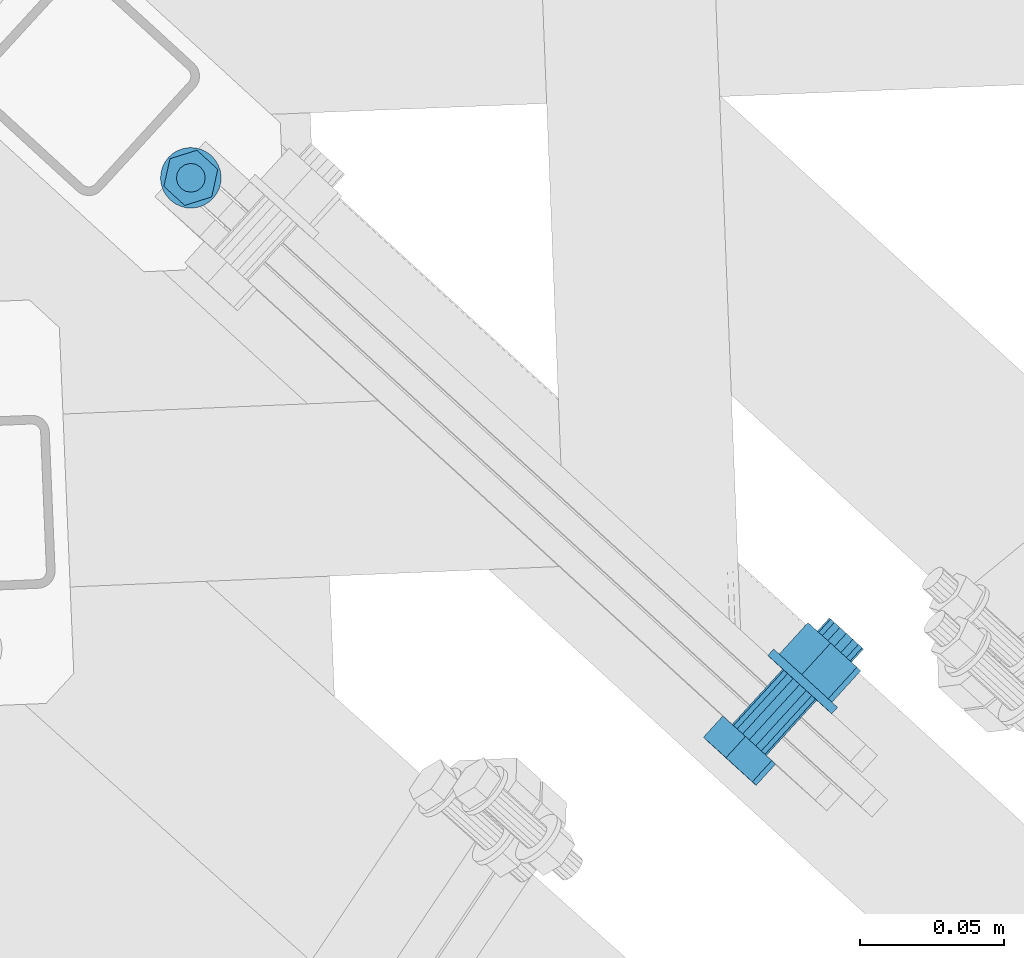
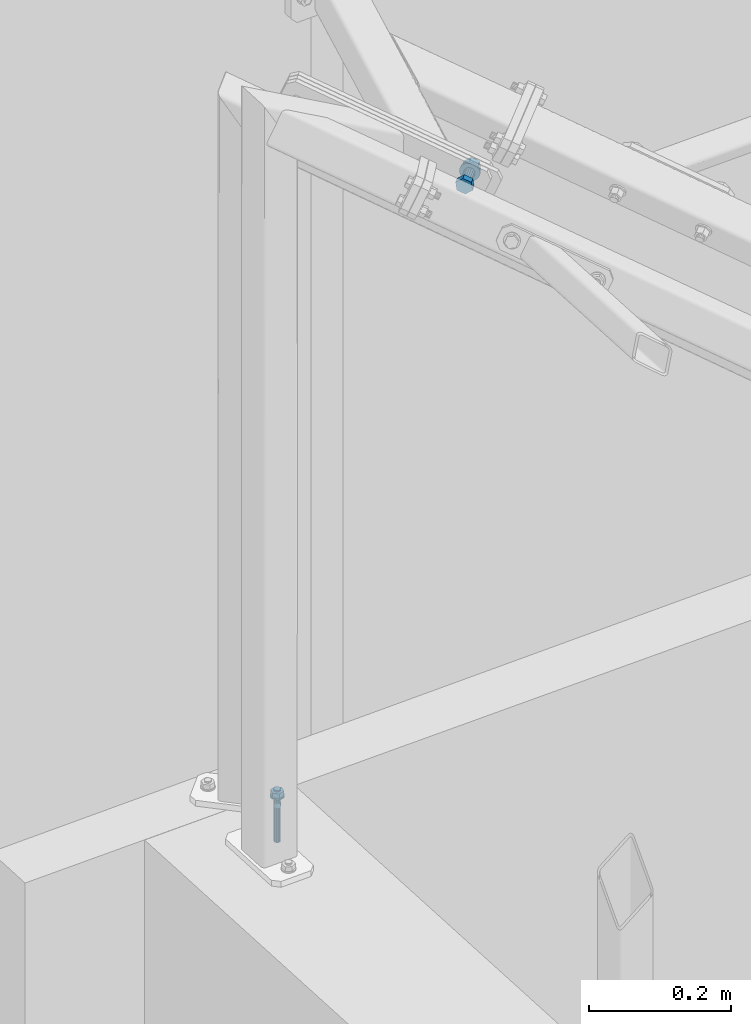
# One storey, part 254 of 288: 2 mechanical fasteners.
"""IFC2X3 building model written with IfcOpenShell, lengths in millimetres."""

from ifc_helpers import new_model, entity, si_unit, converted_unit, origin_with_axes, place, context, project, spatial, faceted_brep, element, save


model = new_model("IFC2X3")

# Units and contexts
model_context = context("Model", 3, precision=1e-09, world=origin_with_axes())
ifc_project = project(units=[si_unit("LENGTHUNIT", "METRE", prefix="MILLI"), si_unit("AREAUNIT", "SQUARE_METRE"), si_unit("VOLUMEUNIT", "CUBIC_METRE"), converted_unit("PLANEANGLEUNIT", "DEGREE", entity("IfcPlaneAngleMeasure", 0.01745329), si_unit("PLANEANGLEUNIT", "RADIAN"), dimensions=[0, 0, 0, 0, 0, 0, 0])], contexts=[model_context])

# Site, building, storey
site_placement = place(None, origin_with_axes())
site = spatial("IfcSite", under=ifc_project, at=site_placement, Name="Remont ?wietlik?w nad MC w NCPP w Opolu", CompositionType="ELEMENT")
building_placement = place(site_placement, origin_with_axes())
building = spatial("IfcBuilding", under=site, at=building_placement, Name="Konstrukcja 1", CompositionType="ELEMENT")
storey_placement = place(building_placement, origin_with_axes())
storey = spatial("IfcBuildingStorey", under=building, at=storey_placement, Name="Default Storey", CompositionType="ELEMENT", Elevation=0.0)

# Mechanical fasteners
mechanical_fastener_1_placement = place(None, origin_with_axes())
element("IfcMechanicalFastener", 1, at=mechanical_fastener_1_placement, inside=storey, ObjectType="-", NominalDiameter=16.0, NominalLength=50.0, context=model_context, shape_type="Brep", body=[
    faceted_brep([(-483.577297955, 15206.854760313, 1122.709779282), (-490.317324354, 15199.467561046, 1122.746263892), (-489.019726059, 15198.218185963, 1109.493116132), (-482.27969966, 15205.60538523, 1109.456631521), (-496.853578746, 15205.325305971, 1101.307138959), (-490.113552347, 15212.712505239, 1101.270654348), (-505.985029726, 15213.681801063, 1106.374309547), (-499.245003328, 15221.06900033, 1106.337824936), (-507.282628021, 15214.931176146, 1119.627457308), (-500.542601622, 15222.318375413, 1119.590972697), (-499.448775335, 15207.824056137, 1127.81343448), (-492.708748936, 15215.211255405, 1127.77694987)], [[[0, 1, 2, 3]], [[3, 2, 4, 5]], [[5, 4, 6, 7]], [[7, 6, 8, 9]], [[9, 8, 10, 11]], [[11, 10, 1, 0]], [[4, 2, 1, 10, 8, 6]], [[0, 3, 5, 7, 9, 11]]]),
    faceted_brep([(-493.668321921, 15215.984741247, 1107.120207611), (-476.144253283, 15235.191459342, 1107.025347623), (-473.88229504, 15233.124720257, 1106.429063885), (-491.406363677, 15213.918002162, 1106.523923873), (-471.621065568, 15231.064661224, 1107.05068909), (-489.145134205, 15211.857943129, 1107.145549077), (-469.704816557, 15229.324907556, 1108.795586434), (-487.228885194, 15210.118189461, 1108.890446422), (-468.425279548, 15228.170320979, 1111.398111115), (-485.949348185, 15208.963602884, 1111.492971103), (-467.977252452, 15227.776676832, 1114.462052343), (-485.501321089, 15208.569958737, 1114.55691233), (-468.428943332, 15228.203903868, 1117.520952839), (-485.953011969, 15208.997185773, 1117.615812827), (-469.711586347, 15229.386960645, 1120.109122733), (-487.235654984, 15210.18024255, 1120.20398272), (-471.629910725, 15231.145737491, 1121.832536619), (-489.153979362, 15211.939019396, 1121.927396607), (-473.891868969, 15233.212476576, 1122.428820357), (-491.415937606, 15214.005758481, 1122.523680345), (-476.15309844, 15235.27253561, 1121.807195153), (-493.677167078, 15216.065817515, 1121.902055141), (-478.069347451, 15237.012289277, 1120.062297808), (-495.593416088, 15217.805571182, 1120.157157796), (-479.34888446, 15238.166875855, 1117.459773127), (-496.872953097, 15218.96015776, 1117.554633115), (-479.796911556, 15238.560520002, 1114.3958319), (-497.320980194, 15219.353801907, 1114.490691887), (-479.345220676, 15238.133292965, 1111.336931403), (-496.869289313, 15218.92657487, 1111.431791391), (-478.062577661, 15236.950236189, 1108.74876151), (-495.586646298, 15217.743518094, 1108.843621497)], [[[0, 1, 2, 3]], [[3, 2, 4, 5]], [[5, 4, 6, 7]], [[7, 6, 8, 9]], [[9, 8, 10, 11]], [[11, 10, 12, 13]], [[13, 12, 14, 15]], [[15, 14, 16, 17]], [[17, 16, 18, 19]], [[19, 18, 20, 21]], [[21, 20, 22, 23]], [[23, 22, 24, 25]], [[25, 24, 26, 27]], [[27, 26, 28, 29]], [[29, 28, 30, 31]], [[31, 30, 1, 0]], [[0, 3, 5, 7, 9, 11, 13, 15, 17, 19, 21, 23, 25, 27, 29, 31]], [[1, 30, 28, 26, 24, 22, 20, 18, 16, 14, 12, 10, 8, 6, 4, 2]]]),
    faceted_brep([(-478.119278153, 15236.961462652, 1100.547202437), (-476.097270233, 15239.177622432, 1100.536257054), (-474.018053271, 15237.276401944, 1099.69432992), (-476.040061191, 15235.060242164, 1099.705275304), (-471.856098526, 15235.302486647, 1099.418225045), (-473.878106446, 15233.086326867, 1099.429170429), (-469.694488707, 15233.331733, 1099.718552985), (-471.716496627, 15231.11557322, 1099.729498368), (-467.616293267, 15231.43987596, 1100.583772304), (-469.638301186, 15229.22371618, 1100.594717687), (-465.70137609, 15229.699618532, 1101.980633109), (-467.72338401, 15227.483458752, 1101.991578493), (-464.023326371, 15228.177837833, 1103.855454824), (-466.045334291, 15225.961678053, 1103.866400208), (-462.646630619, 15226.933015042, 1106.136189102), (-464.668638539, 15224.716855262, 1106.147134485), (-461.62419448, 15226.012988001, 1108.735188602), (-463.646202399, 15223.796828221, 1108.746133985), (-460.9953096, 15225.453112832, 1111.552575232), (-463.01731752, 15223.236953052, 1111.563520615), (-460.784143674, 15225.274905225, 1114.480078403), (-462.806151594, 15223.058745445, 1114.491023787), (-460.998811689, 15225.485213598, 1117.405195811), (-463.020819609, 15223.269053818, 1117.416141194), (-461.631064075, 15226.075955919, 1120.215516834), (-463.653071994, 15223.859796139, 1120.226462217), (-462.656603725, 15227.02443029, 1122.803042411), (-464.678611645, 15224.80827051, 1122.813987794), (-464.036019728, 15228.294187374, 1125.068335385), (-466.058027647, 15226.078027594, 1125.079280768), (-465.716301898, 15229.836431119, 1126.924341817), (-467.738309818, 15227.620271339, 1126.9352872), (-467.632877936, 15231.591893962, 1128.299736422), (-469.654885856, 15229.375734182, 1128.310681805), (-469.712094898, 15233.49311445, 1129.141663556), (-471.734102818, 15231.27695467, 1129.152608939), (-471.874049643, 15235.467029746, 1129.417768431), (-473.896057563, 15233.250869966, 1129.428713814), (-474.035659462, 15237.437783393, 1129.117440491), (-476.057667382, 15235.221623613, 1129.128385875), (-476.113854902, 15239.329640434, 1128.252221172), (-478.135862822, 15237.113480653, 1128.263166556), (-478.028772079, 15241.069897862, 1126.855360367), (-480.050779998, 15238.853738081, 1126.86630575), (-479.706821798, 15242.591678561, 1124.980538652), (-481.728829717, 15240.37551878, 1124.991484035), (-481.08351755, 15243.836501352, 1122.699804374), (-483.10552547, 15241.620341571, 1122.710749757), (-482.105953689, 15244.756528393, 1120.100804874), (-484.127961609, 15242.540368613, 1120.111750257), (-482.734838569, 15245.316403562, 1117.283418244), (-484.756846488, 15243.100243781, 1117.294363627), (-482.946004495, 15245.494611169, 1114.355915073), (-484.968012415, 15243.278451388, 1114.366860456), (-482.73133648, 15245.284302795, 1111.430797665), (-484.753344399, 15243.068143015, 1111.441743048), (-482.099084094, 15244.693560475, 1108.620476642), (-484.121092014, 15242.477400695, 1108.631422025), (-481.073544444, 15243.745086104, 1106.032951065), (-483.095552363, 15241.528926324, 1106.043896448), (-479.694128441, 15242.475329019, 1103.767658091), (-481.716136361, 15240.259169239, 1103.778603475), (-478.013846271, 15240.933085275, 1101.911651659), (-480.03585419, 15238.716925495, 1101.922597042)], [[[0, 1, 2, 3]], [[3, 2, 4, 5]], [[5, 4, 6, 7]], [[7, 6, 8, 9]], [[9, 8, 10, 11]], [[11, 10, 12, 13]], [[13, 12, 14, 15]], [[15, 14, 16, 17]], [[17, 16, 18, 19]], [[19, 18, 20, 21]], [[21, 20, 22, 23]], [[23, 22, 24, 25]], [[25, 24, 26, 27]], [[27, 26, 28, 29]], [[29, 28, 30, 31]], [[31, 30, 32, 33]], [[33, 32, 34, 35]], [[35, 34, 36, 37]], [[37, 36, 38, 39]], [[39, 38, 40, 41]], [[41, 40, 42, 43]], [[43, 42, 44, 45]], [[45, 44, 46, 47]], [[47, 46, 48, 49]], [[49, 48, 50, 51]], [[51, 50, 52, 53]], [[53, 52, 54, 55]], [[55, 54, 56, 57]], [[57, 56, 58, 59]], [[59, 58, 60, 61]], [[61, 60, 62, 63]], [[63, 62, 1, 0]], [[0, 3, 5, 7, 9, 11, 13, 15, 17, 19, 21, 23, 25, 27, 29, 31, 33, 35, 37, 39, 41, 43, 45, 47, 49, 51, 53, 55, 57, 59, 61, 63]], [[1, 62, 60, 58, 56, 54, 52, 50, 48, 46, 44, 42, 40, 38, 36, 34, 32, 30, 28, 26, 24, 22, 20, 18, 16, 14, 12, 10, 8, 6, 4, 2]]]),
    faceted_brep([(-454.055982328, 15239.210693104, 1122.549976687), (-464.031221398, 15228.277638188, 1122.603973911), (-462.733623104, 15227.028263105, 1109.35082615), (-452.758384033, 15237.961318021, 1109.296828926), (-470.56747579, 15234.135383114, 1101.164848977), (-460.59223672, 15245.06843803, 1101.110851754), (-479.698926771, 15242.491878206, 1106.232019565), (-469.7236877, 15253.424933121, 1106.178022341), (-480.996525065, 15243.741253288, 1119.485167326), (-471.021285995, 15254.674308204, 1119.431170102), (-473.162672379, 15236.63413328, 1127.671144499), (-463.187433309, 15247.567188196, 1127.617147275)], [[[0, 1, 2, 3]], [[3, 2, 4, 5]], [[5, 4, 6, 7]], [[7, 6, 8, 9]], [[9, 8, 10, 11]], [[11, 10, 1, 0]], [[4, 2, 1, 10, 8, 6]], [[0, 3, 5, 7, 9, 11]]]),
    faceted_brep([(-464.147006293, 15248.340674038, 1106.960405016), (-459.968189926, 15252.920737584, 1106.937784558), (-457.706231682, 15250.853998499, 1106.34150082), (-461.88504805, 15246.273934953, 1106.364121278), (-455.445002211, 15248.793939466, 1106.963126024), (-459.623818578, 15244.21387592, 1106.985746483), (-453.5287532, 15247.054185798, 1108.708023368), (-457.707569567, 15242.474122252, 1108.730643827), (-452.249216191, 15245.89959922, 1111.31054805), (-456.428032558, 15241.319535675, 1111.333168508), (-451.801189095, 15245.505955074, 1114.374489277), (-455.980005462, 15240.925891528, 1114.397109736), (-452.252879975, 15245.93318211, 1117.433389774), (-456.431696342, 15241.353118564, 1117.456010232), (-453.53552299, 15247.116238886, 1120.021559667), (-457.714339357, 15242.536175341, 1120.044180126), (-455.453847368, 15248.875015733, 1121.744973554), (-459.632663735, 15244.294952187, 1121.767594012), (-457.715805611, 15250.941754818, 1122.341257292), (-461.894621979, 15246.361691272, 1122.36387775), (-459.977035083, 15253.001813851, 1121.719632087), (-464.15585145, 15248.421750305, 1121.742252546), (-461.893284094, 15254.741567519, 1119.974734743), (-466.072100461, 15250.161503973, 1119.997355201), (-463.172821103, 15255.896154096, 1117.372210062), (-467.35163747, 15251.316090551, 1117.39483052), (-463.620848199, 15256.289798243, 1114.308268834), (-467.799664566, 15251.709734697, 1114.330889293), (-463.169157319, 15255.862571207, 1111.249368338), (-467.347973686, 15251.282507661, 1111.271988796), (-461.886514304, 15254.67951443, 1108.661198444), (-466.065330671, 15250.099450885, 1108.683818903)], [[[0, 1, 2, 3]], [[3, 2, 4, 5]], [[5, 4, 6, 7]], [[7, 6, 8, 9]], [[9, 8, 10, 11]], [[11, 10, 12, 13]], [[13, 12, 14, 15]], [[15, 14, 16, 17]], [[17, 16, 18, 19]], [[19, 18, 20, 21]], [[21, 20, 22, 23]], [[23, 22, 24, 25]], [[25, 24, 26, 27]], [[27, 26, 28, 29]], [[29, 28, 30, 31]], [[31, 30, 1, 0]], [[0, 3, 5, 7, 9, 11, 13, 15, 17, 19, 21, 23, 25, 27, 29, 31]], [[1, 30, 28, 26, 24, 22, 20, 18, 16, 14, 12, 10, 8, 6, 4, 2]]]),
])
mechanical_fastener_2_placement = place(None, origin_with_axes())
element("IfcMechanicalFastener", 2, at=mechanical_fastener_2_placement, inside=storey, ObjectType="Anchor_Bolt", NominalDiameter=10.0, NominalLength=90.0, context=model_context, shape_type="Brep", body=[
    faceted_brep([(-677.903982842, 15416.631854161, 12.000000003), (-677.903982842, 15416.631854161, 10.000000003), (-679.551369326, 15417.865938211, 10.000000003), (-679.551369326, 15417.865938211, 12.000000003), (-681.407859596, 15418.754920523, 10.000000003), (-681.407859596, 15418.754920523, 12.000000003), (-683.402109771, 15419.264638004, 10.000000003), (-683.402109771, 15419.264638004, 12.000000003), (-685.457481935, 15419.375502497, 10.000000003), (-685.457481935, 15419.375502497, 12.000000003), (-687.49498929, 15419.083253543, 10.000000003), (-687.49498929, 15419.083253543, 12.000000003), (-689.43633157, 15418.399122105, 10.000000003), (-689.43633157, 15418.399122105, 12.000000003), (-691.206904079, 15417.34939897, 10.000000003), (-691.206904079, 15417.34939897, 12.000000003), (-692.73866471, 15415.97442441, 10.000000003), (-692.73866471, 15415.97442441, 12.000000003), (-693.97274876, 15414.327037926, 10.000000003), (-693.97274876, 15414.327037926, 12.000000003), (-694.861731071, 15412.470547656, 10.000000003), (-694.861731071, 15412.470547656, 12.000000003), (-695.371448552, 15410.476297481, 10.000000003), (-695.371448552, 15410.476297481, 12.000000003), (-695.482313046, 15408.420925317, 10.000000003), (-695.482313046, 15408.420925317, 12.000000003), (-695.190064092, 15406.383417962, 10.000000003), (-695.190064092, 15406.383417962, 12.000000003), (-694.505932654, 15404.442075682, 10.000000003), (-694.505932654, 15404.442075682, 12.000000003), (-693.456209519, 15402.671503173, 10.000000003), (-693.456209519, 15402.671503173, 12.000000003), (-692.081234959, 15401.139742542, 10.000000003), (-692.081234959, 15401.139742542, 12.000000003), (-690.433848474, 15399.905658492, 10.000000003), (-690.433848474, 15399.905658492, 12.000000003), (-688.577358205, 15399.016676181, 10.000000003), (-688.577358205, 15399.016676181, 12.000000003), (-686.58310803, 15398.5069587, 10.000000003), (-686.58310803, 15398.5069587, 12.000000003), (-684.527735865, 15398.396094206, 10.000000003), (-684.527735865, 15398.396094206, 12.000000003), (-682.490228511, 15398.68834316, 10.000000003), (-682.490228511, 15398.68834316, 12.000000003), (-680.548886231, 15399.372474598, 10.000000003), (-680.548886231, 15399.372474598, 12.000000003), (-678.778313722, 15400.422197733, 10.000000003), (-678.778313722, 15400.422197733, 12.000000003), (-677.246553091, 15401.797172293, 10.000000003), (-677.246553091, 15401.797172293, 12.000000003), (-676.012469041, 15403.444558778, 10.000000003), (-676.012469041, 15403.444558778, 12.000000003), (-675.123486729, 15405.301049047, 10.000000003), (-675.123486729, 15405.301049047, 12.000000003), (-674.613769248, 15407.295299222, 10.000000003), (-674.613769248, 15407.295299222, 12.000000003), (-674.502904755, 15409.350671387, 10.000000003), (-674.502904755, 15409.350671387, 12.000000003), (-674.795153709, 15411.388178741, 10.000000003), (-674.795153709, 15411.388178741, 12.000000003), (-675.479285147, 15413.329521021, 10.000000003), (-675.479285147, 15413.329521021, 12.000000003), (-676.529008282, 15415.10009353, 10.000000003), (-676.529008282, 15415.10009353, 12.000000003)], [[[0, 1, 2, 3]], [[3, 2, 4, 5]], [[5, 4, 6, 7]], [[7, 6, 8, 9]], [[9, 8, 10, 11]], [[11, 10, 12, 13]], [[13, 12, 14, 15]], [[15, 14, 16, 17]], [[17, 16, 18, 19]], [[19, 18, 20, 21]], [[21, 20, 22, 23]], [[23, 22, 24, 25]], [[25, 24, 26, 27]], [[27, 26, 28, 29]], [[29, 28, 30, 31]], [[31, 30, 32, 33]], [[33, 32, 34, 35]], [[35, 34, 36, 37]], [[37, 36, 38, 39]], [[39, 38, 40, 41]], [[41, 40, 42, 43]], [[43, 42, 44, 45]], [[45, 44, 46, 47]], [[47, 46, 48, 49]], [[49, 48, 50, 51]], [[51, 50, 52, 53]], [[53, 52, 54, 55]], [[55, 54, 56, 57]], [[57, 56, 58, 59]], [[59, 58, 60, 61]], [[61, 60, 62, 63]], [[63, 62, 1, 0]], [[0, 3, 5, 7, 9, 11, 13, 15, 17, 19, 21, 23, 25, 27, 29, 31, 33, 35, 37, 39, 41, 43, 45, 47, 49, 51, 53, 55, 57, 59, 61, 63]], [[1, 62, 60, 58, 56, 54, 52, 50, 48, 46, 44, 42, 40, 38, 36, 34, 32, 30, 28, 26, 24, 22, 20, 18, 16, 14, 12, 10, 8, 6, 4, 2]]]),
    faceted_brep([(-694.337103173, 15405.932761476, 12.000000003), (-694.337103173, 15405.932761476, 20.000000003), (-692.222260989, 15415.50184934, 20.000000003), (-692.222260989, 15415.50184934, 12.000000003), (-682.877766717, 15418.454886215, 20.000000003), (-682.877766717, 15418.454886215, 12.000000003), (-675.648114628, 15411.838835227, 20.000000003), (-675.648114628, 15411.838835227, 12.000000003), (-677.762956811, 15402.269747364, 20.000000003), (-677.762956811, 15402.269747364, 12.000000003), (-687.107451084, 15399.316710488, 20.000000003), (-687.107451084, 15399.316710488, 12.000000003)], [[[0, 1, 2, 3]], [[3, 2, 4, 5]], [[5, 4, 6, 7]], [[7, 6, 8, 9]], [[9, 8, 10, 11]], [[11, 10, 1, 0]], [[4, 2, 1, 10, 8, 6]], [[0, 3, 5, 7, 9, 11]]]),
    faceted_brep([(-681.617072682, 15412.574396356, 23.000000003), (-681.617072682, 15412.574396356, 20.000000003), (-683.285585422, 15413.585380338, 20.000000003), (-683.285585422, 15413.585380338, 23.000000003), (-685.213977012, 15413.880895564, 20.000000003), (-685.213977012, 15413.880895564, 23.000000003), (-687.108667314, 15413.41595252, 20.000000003), (-687.108667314, 15413.41595252, 23.000000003), (-688.681206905, 15412.26133457, 20.000000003), (-688.681206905, 15412.26133457, 23.000000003), (-689.692190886, 15410.59282183, 20.000000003), (-689.692190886, 15410.59282183, 23.000000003), (-689.987706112, 15408.66443024, 20.000000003), (-689.987706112, 15408.66443024, 23.000000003), (-689.522763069, 15406.769739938, 20.000000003), (-689.522763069, 15406.769739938, 23.000000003), (-688.368145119, 15405.197200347, 20.000000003), (-688.368145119, 15405.197200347, 23.000000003), (-686.699632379, 15404.186216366, 20.000000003), (-686.699632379, 15404.186216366, 23.000000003), (-684.771240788, 15403.89070114, 20.000000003), (-684.771240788, 15403.89070114, 23.000000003), (-682.876550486, 15404.355644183, 20.000000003), (-682.876550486, 15404.355644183, 23.000000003), (-681.304010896, 15405.510262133, 20.000000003), (-681.304010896, 15405.510262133, 23.000000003), (-680.293026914, 15407.178774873, 20.000000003), (-680.293026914, 15407.178774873, 23.000000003), (-679.997511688, 15409.107166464, 20.000000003), (-679.997511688, 15409.107166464, 23.000000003), (-680.462454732, 15411.001856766, 20.000000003), (-680.462454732, 15411.001856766, 23.000000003)], [[[0, 1, 2, 3]], [[3, 2, 4, 5]], [[5, 4, 6, 7]], [[7, 6, 8, 9]], [[9, 8, 10, 11]], [[11, 10, 12, 13]], [[13, 12, 14, 15]], [[15, 14, 16, 17]], [[17, 16, 18, 19]], [[19, 18, 20, 21]], [[21, 20, 22, 23]], [[23, 22, 24, 25]], [[25, 24, 26, 27]], [[27, 26, 28, 29]], [[29, 28, 30, 31]], [[31, 30, 1, 0]], [[0, 3, 5, 7, 9, 11, 13, 15, 17, 19, 21, 23, 25, 27, 29, 31]], [[1, 30, 28, 26, 24, 22, 20, 18, 16, 14, 12, 10, 8, 6, 4, 2]]]),
    faceted_brep([(-681.617072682, 15412.574396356, 10.000000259), (-681.617072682, 15412.574396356, 3e-09), (-683.285585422, 15413.585380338, 3e-09), (-683.285585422, 15413.585380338, 10.000000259), (-685.213977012, 15413.880895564, 3e-09), (-685.213977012, 15413.880895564, 10.000000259), (-687.108667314, 15413.41595252, 3e-09), (-687.108667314, 15413.41595252, 10.000000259), (-688.681206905, 15412.26133457, 3e-09), (-688.681206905, 15412.26133457, 10.000000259), (-689.692190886, 15410.59282183, 3e-09), (-689.692190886, 15410.59282183, 10.000000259), (-689.987706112, 15408.66443024, 3e-09), (-689.987706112, 15408.66443024, 10.000000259), (-689.522763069, 15406.769739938, 3e-09), (-689.522763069, 15406.769739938, 10.000000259), (-688.368145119, 15405.197200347, 3e-09), (-688.368145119, 15405.197200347, 10.000000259), (-686.699632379, 15404.186216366, 3e-09), (-686.699632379, 15404.186216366, 10.000000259), (-684.771240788, 15403.89070114, 3e-09), (-684.771240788, 15403.89070114, 10.000000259), (-682.876550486, 15404.355644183, 3e-09), (-682.876550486, 15404.355644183, 10.000000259), (-681.304010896, 15405.510262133, 3e-09), (-681.304010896, 15405.510262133, 10.000000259), (-680.293026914, 15407.178774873, 3e-09), (-680.293026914, 15407.178774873, 10.000000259), (-679.997511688, 15409.107166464, 3e-09), (-679.997511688, 15409.107166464, 10.000000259), (-680.462454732, 15411.001856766, 3e-09), (-680.462454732, 15411.001856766, 10.000000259)], [[[0, 1, 2, 3]], [[3, 2, 4, 5]], [[5, 4, 6, 7]], [[7, 6, 8, 9]], [[9, 8, 10, 11]], [[11, 10, 12, 13]], [[13, 12, 14, 15]], [[15, 14, 16, 17]], [[17, 16, 18, 19]], [[19, 18, 20, 21]], [[21, 20, 22, 23]], [[23, 22, 24, 25]], [[25, 24, 26, 27]], [[27, 26, 28, 29]], [[29, 28, 30, 31]], [[31, 30, 1, 0]], [[0, 3, 5, 7, 9, 11, 13, 15, 17, 19, 21, 23, 25, 27, 29, 31]], [[1, 30, 28, 26, 24, 22, 20, 18, 16, 14, 12, 10, 8, 6, 4, 2]]]),
    faceted_brep([(-681.617072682, 15412.574396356, -2.53e-07), (-681.617072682, 15412.574396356, -6.999999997), (-682.401542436, 15413.162055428, -6.999999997), (-682.401542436, 15413.162055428, -2.53e-07), (-683.285585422, 15413.585380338, -6.999999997), (-683.285585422, 15413.585380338, -2.53e-07), (-684.235228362, 15413.828102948, -6.999999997), (-684.235228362, 15413.828102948, -2.53e-07), (-685.213977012, 15413.880895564, -6.999999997), (-685.213977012, 15413.880895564, -2.53e-07), (-686.18421861, 15413.741729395, -6.999999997), (-686.18421861, 15413.741729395, -2.53e-07), (-687.108667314, 15413.41595252, -6.999999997), (-687.108667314, 15413.41595252, -2.53e-07), (-687.951797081, 15412.916084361, -6.999999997), (-687.951797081, 15412.916084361, -2.53e-07), (-688.681206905, 15412.26133457, -6.999999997), (-688.681206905, 15412.26133457, -2.53e-07), (-689.268865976, 15411.476864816, -6.999999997), (-689.268865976, 15411.476864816, -2.53e-07), (-689.692190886, 15410.59282183, -6.999999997), (-689.692190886, 15410.59282183, -2.53e-07), (-689.934913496, 15409.64317889, -6.999999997), (-689.934913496, 15409.64317889, -2.53e-07), (-689.987706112, 15408.66443024, -6.999999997), (-689.987706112, 15408.66443024, -2.53e-07), (-689.848539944, 15407.694188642, -6.999999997), (-689.848539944, 15407.694188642, -2.53e-07), (-689.522763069, 15406.769739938, -6.999999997), (-689.522763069, 15406.769739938, -2.53e-07), (-689.022894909, 15405.926610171, -6.999999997), (-689.022894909, 15405.926610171, -2.53e-07), (-688.368145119, 15405.197200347, -6.999999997), (-688.368145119, 15405.197200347, -2.53e-07), (-687.583675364, 15404.609541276, -6.999999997), (-687.583675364, 15404.609541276, -2.53e-07), (-686.699632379, 15404.186216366, -6.999999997), (-686.699632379, 15404.186216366, -2.53e-07), (-685.749989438, 15403.943493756, -6.999999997), (-685.749989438, 15403.943493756, -2.53e-07), (-684.771240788, 15403.89070114, -6.999999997), (-684.771240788, 15403.89070114, -2.53e-07), (-683.800999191, 15404.029867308, -6.999999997), (-683.800999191, 15404.029867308, -2.53e-07), (-682.876550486, 15404.355644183, -6.999999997), (-682.876550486, 15404.355644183, -2.53e-07), (-682.03342072, 15404.855512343, -6.999999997), (-682.03342072, 15404.855512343, -2.53e-07), (-681.304010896, 15405.510262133, -6.999999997), (-681.304010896, 15405.510262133, -2.53e-07), (-680.716351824, 15406.294731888, -6.999999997), (-680.716351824, 15406.294731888, -2.53e-07), (-680.293026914, 15407.178774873, -6.999999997), (-680.293026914, 15407.178774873, -2.53e-07), (-680.050304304, 15408.128417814, -6.999999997), (-680.050304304, 15408.128417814, -2.53e-07), (-679.997511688, 15409.107166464, -6.999999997), (-679.997511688, 15409.107166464, -2.53e-07), (-680.136677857, 15410.077408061, -6.999999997), (-680.136677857, 15410.077408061, -2.53e-07), (-680.462454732, 15411.001856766, -6.999999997), (-680.462454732, 15411.001856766, -2.53e-07), (-680.962322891, 15411.844986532, -6.999999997), (-680.962322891, 15411.844986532, -2.53e-07)], [[[0, 1, 2, 3]], [[3, 2, 4, 5]], [[5, 4, 6, 7]], [[7, 6, 8, 9]], [[9, 8, 10, 11]], [[11, 10, 12, 13]], [[13, 12, 14, 15]], [[15, 14, 16, 17]], [[17, 16, 18, 19]], [[19, 18, 20, 21]], [[21, 20, 22, 23]], [[23, 22, 24, 25]], [[25, 24, 26, 27]], [[27, 26, 28, 29]], [[29, 28, 30, 31]], [[31, 30, 32, 33]], [[33, 32, 34, 35]], [[35, 34, 36, 37]], [[37, 36, 38, 39]], [[39, 38, 40, 41]], [[41, 40, 42, 43]], [[43, 42, 44, 45]], [[45, 44, 46, 47]], [[47, 46, 48, 49]], [[49, 48, 50, 51]], [[51, 50, 52, 53]], [[53, 52, 54, 55]], [[55, 54, 56, 57]], [[57, 56, 58, 59]], [[59, 58, 60, 61]], [[61, 60, 62, 63]], [[63, 62, 1, 0]], [[0, 3, 5, 7, 9, 11, 13, 15, 17, 19, 21, 23, 25, 27, 29, 31, 33, 35, 37, 39, 41, 43, 45, 47, 49, 51, 53, 55, 57, 59, 61, 63]], [[1, 62, 60, 58, 56, 54, 52, 50, 48, 46, 44, 42, 40, 38, 36, 34, 32, 30, 28, 26, 24, 22, 20, 18, 16, 14, 12, 10, 8, 6, 4, 2]]]),
    faceted_brep([(-681.617072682, 15412.574396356, -6.999999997), (-681.617072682, 15412.574396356, -66.999999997), (-683.285585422, 15413.585380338, -66.999999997), (-683.285585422, 15413.585380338, -6.999999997), (-685.213977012, 15413.880895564, -66.999999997), (-685.213977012, 15413.880895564, -6.999999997), (-687.108667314, 15413.41595252, -66.999999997), (-687.108667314, 15413.41595252, -6.999999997), (-688.681206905, 15412.26133457, -66.999999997), (-688.681206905, 15412.26133457, -6.999999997), (-689.692190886, 15410.59282183, -66.999999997), (-689.692190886, 15410.59282183, -6.999999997), (-689.987706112, 15408.66443024, -66.999999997), (-689.987706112, 15408.66443024, -6.999999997), (-689.522763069, 15406.769739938, -66.999999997), (-689.522763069, 15406.769739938, -6.999999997), (-688.368145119, 15405.197200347, -66.999999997), (-688.368145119, 15405.197200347, -6.999999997), (-686.699632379, 15404.186216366, -66.999999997), (-686.699632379, 15404.186216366, -6.999999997), (-684.771240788, 15403.89070114, -66.999999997), (-684.771240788, 15403.89070114, -6.999999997), (-682.876550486, 15404.355644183, -66.999999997), (-682.876550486, 15404.355644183, -6.999999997), (-681.304010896, 15405.510262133, -66.999999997), (-681.304010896, 15405.510262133, -6.999999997), (-680.293026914, 15407.178774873, -66.999999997), (-680.293026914, 15407.178774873, -6.999999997), (-679.997511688, 15409.107166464, -66.999999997), (-679.997511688, 15409.107166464, -6.999999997), (-680.462454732, 15411.001856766, -66.999999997), (-680.462454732, 15411.001856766, -6.999999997)], [[[0, 1, 2, 3]], [[3, 2, 4, 5]], [[5, 4, 6, 7]], [[7, 6, 8, 9]], [[9, 8, 10, 11]], [[11, 10, 12, 13]], [[13, 12, 14, 15]], [[15, 14, 16, 17]], [[17, 16, 18, 19]], [[19, 18, 20, 21]], [[21, 20, 22, 23]], [[23, 22, 24, 25]], [[25, 24, 26, 27]], [[27, 26, 28, 29]], [[29, 28, 30, 31]], [[31, 30, 1, 0]], [[0, 3, 5, 7, 9, 11, 13, 15, 17, 19, 21, 23, 25, 27, 29, 31]], [[1, 30, 28, 26, 24, 22, 20, 18, 16, 14, 12, 10, 8, 6, 4, 2]]]),
])

save(model, "model.ifc")
